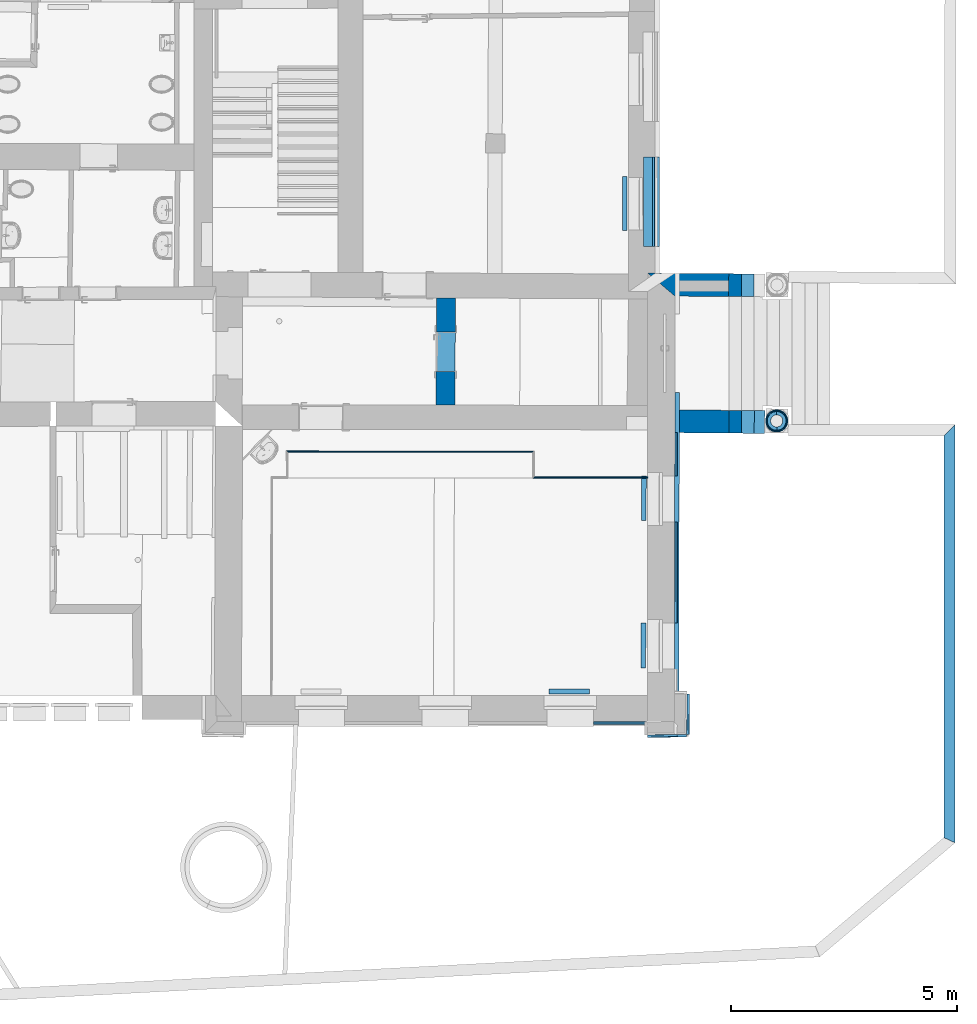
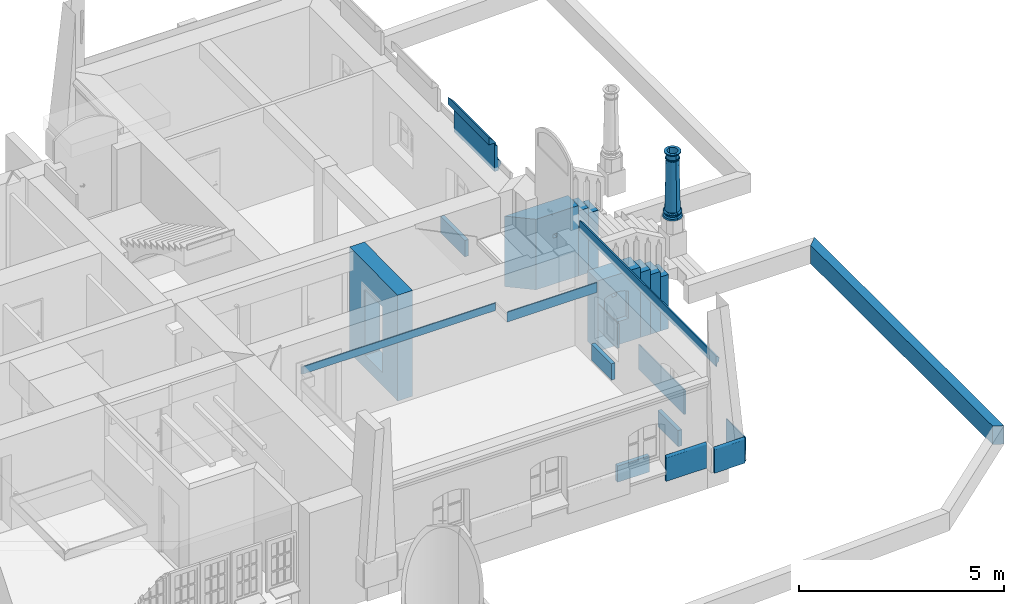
# One storey, part 53 of 196: 24 walls, 5 openings.
"""IFC2X3 building model written with IfcOpenShell, lengths in metres."""

from ifc_helpers import new_model, entity, si_unit, converted_unit, derived_unit, money_unit, point, direction, frame, frame_2d, origin_with_axes, origin_2d_with_axis, place, context, subcontext, project, spatial, polyline, circle_curve, parameter, trimmed, segment, composite_curve, rectangle, outline, extrude, material, layer, layer_set, layer_usage, type_object, element, save


model = new_model("IFC2X3")

# Units and contexts
model_context = context("Model", 3, precision=1e-05, world=origin_with_axes(), true_north=direction((0.0, 1.0)))
body_context = subcontext(model_context, "Body", "Model", "MODEL_VIEW")
ifc_project = project(units=[si_unit("LENGTHUNIT", "METRE"), si_unit("AREAUNIT", "SQUARE_METRE"), si_unit("VOLUMEUNIT", "CUBIC_METRE"), converted_unit("PLANEANGLEUNIT", "DEGREE", entity("IfcPlaneAngleMeasure", 0.0174532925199), si_unit("PLANEANGLEUNIT", "RADIAN"), dimensions=[0, 0, 0, 0, 0, 0, 0]), money_unit("EUR"), converted_unit("TIMEUNIT", "Year", entity("IfcTimeMeasure", 31556926.0), si_unit("TIMEUNIT", "SECOND"), dimensions=[0, 0, 1, 0, 0, 0, 0]), si_unit("MASSUNIT", "GRAM", prefix="KILO"), si_unit("THERMODYNAMICTEMPERATUREUNIT", "DEGREE_CELSIUS"), si_unit("LUMINOUSINTENSITYUNIT", "LUMEN"), si_unit("ENERGYUNIT", "JOULE", prefix="MEGA"), derived_unit("THERMALCONDUCTANCEUNIT", [(si_unit("POWERUNIT", "WATT"), 1), (si_unit("LENGTHUNIT", "METRE"), -1), (si_unit("THERMODYNAMICTEMPERATUREUNIT", "KELVIN"), -1)]), derived_unit("SPECIFICHEATCAPACITYUNIT", [(si_unit("ENERGYUNIT", "JOULE"), 1), (si_unit("MASSUNIT", "GRAM", prefix="KILO"), -1), (si_unit("THERMODYNAMICTEMPERATUREUNIT", "KELVIN"), -1)]), derived_unit("MASSDENSITYUNIT", [(si_unit("MASSUNIT", "GRAM", prefix="KILO"), 1), (si_unit("VOLUMEUNIT", "CUBIC_METRE"), -1)])], contexts=[model_context])

# Site, building, storey
site_placement = place(None, origin_with_axes())
site = spatial("IfcSite", under=ifc_project, at=site_placement, Name="Gelände", CompositionType="ELEMENT")
building_placement = place(site_placement, origin_with_axes())
building = spatial("IfcBuilding", under=site, at=building_placement, Name="Gebäude", CompositionType="ELEMENT")
storey_placement = place(building_placement, frame((0.0, 0.0, -3.0), z_axis=(0.0, 0.0, 1.0), x_axis=(1.0, 0.0, 0.0)))
storey = spatial("IfcBuildingStorey", under=building, at=storey_placement, Name="KELLERGESCHOSS", CompositionType="ELEMENT", Elevation=-3.0)

# Wall, opening
ifc_material_1 = material(Name="05_ALLGEMEIN - TRAGENDE BAUTEILE")
ifc_layer_1 = layer(ifc_material_1, 0.42, ventilated="UNKNOWN")
ifc_layer_set_1 = layer_set([ifc_layer_1], Name="05_ALLGEMEIN - TRAGENDE BAUTEILE 0.42")
ifc_layer_usage_1 = layer_usage(ifc_layer_set_1, "AXIS2", "NEGATIVE", 0.42)
wall_type_1 = type_object("IfcWallType", Name="05_ALLGEMEIN - TRAGENDE BAUTEILE 420", PredefinedType="ELEMENTEDWALL")
wall_1_placement = place(storey_placement, frame((26.8509158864, 19.262134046, -0.36), z_axis=(0.0, 0.0, 1.0), x_axis=(-0.00654431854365, -0.999978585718, 0.0)))
wall_1 = element("IfcWallStandardCase", 1, at=wall_1_placement, inside=storey, type_object=wall_type_1, material=ifc_layer_usage_1, Name="Wand-039", ObjectType="ELEMENTEDWALL", context=body_context, shape_type="SweptSolid", body=[
    extrude(outline(polyline([(0.0, 0.0), (2.37231980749, 0.0), (2.3700535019, 0.42), (-0.000498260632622, 0.42), (0.0, 0.0)])), origin_with_axes(), (0.0, 0.0, 1.0), 3.15),
])
opening_1_placement = place(wall_1_placement, frame((1.19311874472, 0.0, 0.385307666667), z_axis=(0.0, 0.0, 1.0), x_axis=(1.0, 0.0, 0.0)))
element("IfcOpeningElement", 2, at=opening_1_placement, cuts=wall_1, Name="Tür-022", context=body_context, shape_type="SweptSolid", body=[
    extrude(rectangle(XDim=0.875595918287, YDim=1.968789, at=origin_2d_with_axis()), frame((0.0, -0.42, 0.9843945), z_axis=(0.0, -1.0, 0.0), x_axis=(1.0, 0.0, 0.0)), (0.0, 0.0, -1.0), 1.26),
])

# Walls
ifc_layer_2 = layer(ifc_material_1, 0.250000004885, ventilated="UNKNOWN")
ifc_layer_set_2 = layer_set([ifc_layer_2], Name="05_ALLGEMEIN - TRAGENDE BAUTEILE 0.25")
ifc_layer_usage_2 = layer_usage(ifc_layer_set_2, "AXIS2", "POSITIVE", 0.0)
wall_type_2 = type_object("IfcWallType", Name="05_ALLGEMEIN - TRAGENDE BAUTEILE 250", PredefinedType="ELEMENTEDWALL")
wall_2_placement = place(storey_placement, frame((38.0674878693, 16.2085083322, 0.212), z_axis=(0.0, 0.0, 1.0), x_axis=(-0.000193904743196, -0.9999999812, 0.0)))
element("IfcWallStandardCase", 3, at=wall_2_placement, inside=storey, type_object=wall_type_2, material=ifc_layer_usage_2, Name="Wand-038", ObjectType="ELEMENTEDWALL", context=body_context, shape_type="SweptSolid", body=[
    extrude(outline(polyline([(0.0, 0.0), (8.87969154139, 0.0), (8.9959507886, 0.25), (-0.25, 0.25), (0.0, 0.0)])), origin_with_axes(), (0.0, 0.0, 1.0), 0.55),
])
ifc_material_2 = material(Name="43_Gipskarton")
ifc_layer_3 = layer(ifc_material_2, 0.03, ventilated="UNKNOWN")
ifc_layer_set_3 = layer_set([ifc_layer_3], Name="43_Gipskarton 0.03")
ifc_layer_usage_3 = layer_usage(ifc_layer_set_3, "AXIS2", "NEGATIVE", 0.0)
wall_type_3 = type_object("IfcWallType", Name="43_Gipskarton 30", PredefinedType="ELEMENTEDWALL")
wall_3_placement = place(storey_placement, frame((31.5172960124, 15.2761536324, 2.22), z_axis=(0.0, 0.0, 1.0), x_axis=(-0.999999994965, -0.00010035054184, 0.0)))
element("IfcWallStandardCase", 4, at=wall_3_placement, inside=storey, type_object=wall_type_3, material=ifc_layer_usage_3, Name="Wand-072", ObjectType="ELEMENTEDWALL", context=body_context, shape_type="SweptSolid", body=[
    extrude(outline(polyline([(0.0, -0.03), (2.506890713, -0.03), (2.53695179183, 0.0), (0.0, 0.0), (0.0, -0.03)])), origin_with_axes(), (0.0, 0.0, 1.0), 0.29),
])
ifc_layer_usage_4 = layer_usage(ifc_layer_set_3, "AXIS2", "NEGATIVE", 0.0)
wall_4_placement = place(storey_placement, frame((28.981445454, 15.845434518, 2.22), z_axis=(0.0, 0.0, 1.0), x_axis=(-0.99999998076, 0.000196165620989, 0.0)))
element("IfcWallStandardCase", 5, at=wall_4_placement, inside=storey, type_object=wall_type_3, material=ifc_layer_usage_4, Name="Wand-073", ObjectType="ELEMENTEDWALL", context=body_context, shape_type="SweptSolid", body=[
    extrude(outline(polyline([(-0.0300521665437, -0.03), (5.44938726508, -0.03), (5.41919817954, 0.0), (0.0, 0.0), (-0.0300521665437, -0.03)])), origin_with_axes(), (0.0, 0.0, 1.0), 0.22),
])
ifc_material_3 = material(Name="01_ALLGEMEIN - BAUTEIL")
ifc_layer_4 = layer(ifc_material_3, 0.105, ventilated="UNKNOWN")
ifc_layer_set_4 = layer_set([ifc_layer_4], Name="01_ALLGEMEIN - BAUTEIL 0.105")
ifc_layer_usage_5 = layer_usage(ifc_layer_set_4, "AXIS2", "NEGATIVE", 0.0)
wall_type_4 = type_object("IfcWallType", Name="01_ALLGEMEIN - BAUTEIL 105", PredefinedType="ELEMENTEDWALL")
wall_5_placement = place(storey_placement, frame((29.3415570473, 10.6110072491, 0.217027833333), z_axis=(0.0, 0.0, 1.0), x_axis=(0.999999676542, 0.000804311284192, 0.0)))
element("IfcWallStandardCase", 6, at=wall_5_placement, inside=storey, type_object=wall_type_4, material=ifc_layer_usage_5, Name="Wand-037", ObjectType="ELEMENTEDWALL", context=body_context, shape_type="SweptSolid", body=[
    extrude(outline(polyline([(0.0, -0.105), (0.892507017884, -0.105), (0.892507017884, 0.0), (0.0, 0.0), (0.0, -0.105)])), origin_with_axes(), (0.0, 0.0, 1.0), 0.485031),
])
ifc_layer_usage_6 = layer_usage(ifc_layer_set_4, "AXIS2", "NEGATIVE", 0.0)
wall_6_placement = place(storey_placement, frame((31.3774200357, 14.3436472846, 0.217027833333), z_axis=(0.0, 0.0, 1.0), x_axis=(0.00712959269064, 0.999974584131, 0.0)))
element("IfcWallStandardCase", 7, at=wall_6_placement, inside=storey, type_object=wall_type_4, material=ifc_layer_usage_6, Name="Wand-038", ObjectType="ELEMENTEDWALL", context=body_context, shape_type="SweptSolid", body=[
    extrude(outline(polyline([(0.0, -0.105), (0.980929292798, -0.105), (0.980929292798, 0.0), (0.0, 0.0), (0.0, -0.105)])), origin_with_axes(), (0.0, 0.0, 1.0), 0.485031),
])
ifc_layer_usage_7 = layer_usage(ifc_layer_set_4, "AXIS2", "NEGATIVE", 0.105)
wall_7_placement = place(storey_placement, frame((31.3739560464, 12.0712479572, 0.217027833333), z_axis=(0.0, 0.0, 1.0), x_axis=(-0.00472354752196, -0.999988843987, 0.0)))
element("IfcWallStandardCase", 8, at=wall_7_placement, inside=storey, type_object=wall_type_4, material=ifc_layer_usage_7, Name="Wand-039", ObjectType="ELEMENTEDWALL", context=body_context, shape_type="SweptSolid", body=[
    extrude(outline(polyline([(0.0, 0.0), (0.996149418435, 0.0), (0.996149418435, 0.105), (0.0, 0.105), (0.0, 0.0)])), origin_with_axes(), (0.0, 0.0, 1.0), 0.485031),
])
ifc_layer_usage_8 = layer_usage(ifc_layer_set_4, "AXIS2", "NEGATIVE", 0.0)
wall_8_placement = place(storey_placement, frame((30.9574664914, 20.7531469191, 0.147079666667), z_axis=(0.0, 0.0, 1.0), x_axis=(0.00208344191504, 0.999997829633, 0.0)))
element("IfcWallStandardCase", 9, at=wall_8_placement, inside=storey, type_object=wall_type_4, material=ifc_layer_usage_8, Name="Wand-039", ObjectType="ELEMENTEDWALL", context=body_context, shape_type="SweptSolid", body=[
    extrude(outline(polyline([(0.0, -0.105), (1.19626940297, -0.105), (1.19626940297, 0.0), (0.0, 0.0), (0.0, -0.105)])), origin_with_axes(), (0.0, 0.0, 1.0), 0.485031),
])
ifc_layer_5 = layer(ifc_material_1, 0.504364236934, ventilated="UNKNOWN")
ifc_layer_set_5 = layer_set([ifc_layer_5], Name="05_ALLGEMEIN - TRAGENDE BAUTEILE 0.504364")
ifc_layer_usage_9 = layer_usage(ifc_layer_set_5, "AXIS2", "POSITIVE", -0.504364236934)
wall_type_5 = type_object("IfcWallType", Name="05_ALLGEMEIN - TRAGENDE BAUTEILE 504", PredefinedType="ELEMENTEDWALL")
wall_9_placement = place(storey_placement, frame((33.8731890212, 16.2667177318, -0.36), z_axis=(0.0, 0.0, 1.0), x_axis=(-0.999963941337, 0.00849211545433, 0.0)))
element("IfcWallStandardCase", 10, at=wall_9_placement, inside=storey, type_object=wall_type_5, material=ifc_layer_usage_9, Name="Wand-043", ObjectType="ELEMENTEDWALL", context=body_context, shape_type="SweptSolid", body=[
    extrude(outline(polyline([(0.0, -0.504364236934), (0.279703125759, -0.504364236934), (0.279703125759, 0.0), (0.0, 0.0), (0.0, -0.504364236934)])), origin_with_axes(), (0.0, 0.0, 1.0), 1.774),
])
ifc_layer_usage_10 = layer_usage(ifc_layer_set_5, "AXIS2", "POSITIVE", -0.504364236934)
wall_10_placement = place(storey_placement, frame((34.1042580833, 16.2647553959, -0.36), z_axis=(0.0, 0.0, 1.0), x_axis=(-0.999963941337, 0.00849211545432, 0.0)))
element("IfcWallStandardCase", 11, at=wall_10_placement, inside=storey, type_object=wall_type_5, material=ifc_layer_usage_10, Name="Wand-043", ObjectType="ELEMENTEDWALL", context=body_context, shape_type="SweptSolid", body=[
    extrude(outline(polyline([(0.0, -0.504364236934), (0.231077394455, -0.504364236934), (0.231077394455, 0.0), (0.0, 0.0), (0.0, -0.504364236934)])), origin_with_axes(), (0.0, 0.0, 1.0), 1.611),
])
ifc_layer_usage_11 = layer_usage(ifc_layer_set_5, "AXIS2", "NEGATIVE", 0.504364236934)
wall_11_placement = place(storey_placement, frame((33.8734217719, 19.792093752, -0.36), z_axis=(0.0, 0.0, 1.0), x_axis=(-0.999975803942, 0.00695640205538, 0.0)))
element("IfcWallStandardCase", 12, at=wall_11_placement, inside=storey, type_object=wall_type_5, material=ifc_layer_usage_11, Name="Wand-043", ObjectType="ELEMENTEDWALL", context=body_context, shape_type="SweptSolid", body=[
    extrude(outline(polyline([(0.0, 0.0), (0.279699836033, 0.0), (0.279699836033, 0.504364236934), (0.0, 0.504364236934), (0.0, 0.0)])), origin_with_axes(), (0.0, 0.0, 1.0), 1.774),
])

# Wall, openings
ifc_layer_usage_12 = layer_usage(ifc_layer_set_5, "AXIS2", "POSITIVE", -0.504364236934)
wall_12_placement = place(storey_placement, frame((33.311914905, 16.2714843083, -0.36), z_axis=(0.0, 0.0, 1.0), x_axis=(-0.999963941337, 0.00849211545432, 0.0)))
wall_12 = element("IfcWallStandardCase", 13, at=wall_12_placement, inside=storey, type_object=wall_type_5, material=ifc_layer_usage_12, Name="Wand-043", ObjectType="ELEMENTEDWALL", context=body_context, shape_type="SweptSolid", body=[
    extrude(outline(polyline([(0.0, -0.504364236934), (1.19779356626, -0.504364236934), (1.1938949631, 0.0), (0.0, 0.0), (0.0, -0.504364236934)])), origin_with_axes(), (0.0, 0.0, 1.0), 2.1),
])
opening_2_placement = place(wall_12_placement, frame((0.675035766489, 0.0, 0.688096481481), z_axis=(0.0, 0.0, 1.0), x_axis=(1.0, 0.0, 0.0)))
element("IfcOpeningElement", 14, at=opening_2_placement, cuts=wall_12, Name="Fenster-015", ObjectType="Recess", context=body_context, shape_type="SweptSolid", body=[
    extrude(outline(polyline([(-0.335874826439, 0.0), (-0.335874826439, -0.815653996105), (-0.229010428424, -0.86189020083), (-0.116049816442, -0.89013358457), (4.02905298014e-09, -0.89963233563), (0.116049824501, -0.89013358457), (0.229010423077, -0.86189020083), (0.335874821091, -0.815653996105), (0.33587582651, -0.815554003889), (0.335874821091, 0.0), (-0.335874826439, 0.0)])), frame((0.0, -0.126098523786, 0.0), z_axis=(0.0, -1.0, 0.0), x_axis=(-1.0, 0.0, 0.0)), (0.0, 0.0, -1.0), 0.630462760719),
])
opening_3_placement = place(wall_12_placement, frame((0.665344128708, 0.0, 1.37194148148), z_axis=(0.0, 0.0, 1.0), x_axis=(1.0, 0.0, 0.0)))
element("IfcOpeningElement", 15, at=opening_3_placement, cuts=wall_12, Name="Fenster-015", context=body_context, shape_type="SweptSolid", body=[
    extrude(rectangle(XDim=0.117865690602, YDim=0.114639, at=origin_2d_with_axis()), frame((0.0, -0.126098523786, 0.0573195), z_axis=(0.0, -1.0, 0.0), x_axis=(1.0, 0.0, 0.0)), (0.0, 0.0, 1.0), 0.882629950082),
    extrude(rectangle(XDim=0.117865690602, YDim=0.114639, at=origin_2d_with_axis()), frame((0.0, -0.126098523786, 0.0573195), z_axis=(0.0, 1.0, 0.0), x_axis=(1.0, 0.0, 0.0)), (0.0, 0.0, 1.0), 0.630462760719),
])

# Wall
ifc_layer_usage_13 = layer_usage(ifc_layer_set_5, "AXIS2", "NEGATIVE", 0.504364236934)
wall_13_placement = place(storey_placement, frame((33.5937287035, 19.7940394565, -0.36), z_axis=(0.0, 0.0, 1.0), x_axis=(-0.999975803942, 0.00695640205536, 0.0)))
element("IfcWallStandardCase", 16, at=wall_13_placement, inside=storey, type_object=wall_type_5, material=ifc_layer_usage_13, Name="Wand-043", ObjectType="ELEMENTEDWALL", context=body_context, shape_type="SweptSolid", body=[
    extrude(outline(polyline([(0.0, 0.0), (0.281820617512, 0.0), (0.281820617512, 0.504364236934), (0.0, 0.504364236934), (0.0, 0.0)])), origin_with_axes(), (0.0, 0.0, 1.0), 1.937),
])

# Wall, openings
ifc_layer_usage_14 = layer_usage(ifc_layer_set_5, "AXIS2", "NEGATIVE", 0.504364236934)
wall_14_placement = place(storey_placement, frame((33.311914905, 19.795999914, -0.36), z_axis=(0.0, 0.0, 1.0), x_axis=(-0.999975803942, 0.00695640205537, 0.0)))
wall_14 = element("IfcWallStandardCase", 17, at=wall_14_placement, inside=storey, type_object=wall_type_5, material=ifc_layer_usage_14, Name="Wand-043", ObjectType="ELEMENTEDWALL", context=body_context, shape_type="SweptSolid", body=[
    extrude(outline(polyline([(0.0, 0.0), (1.79120574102, 0.0), (1.18807024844, 0.504364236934), (0.0, 0.504364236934), (0.0, 0.0)])), origin_with_axes(), (0.0, 0.0, 1.0), 2.1),
])
opening_4_placement = place(wall_14_placement, frame((0.669546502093, 0.0, 0.688096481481), z_axis=(0.0, 0.0, 1.0), x_axis=(1.0, 0.0, 0.0)))
element("IfcOpeningElement", 18, at=opening_4_placement, cuts=wall_14, Name="Fenster-015", ObjectType="Recess", context=body_context, shape_type="SweptSolid", body=[
    extrude(outline(polyline([(-0.335874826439, 0.0), (-0.335874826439, -0.815653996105), (-0.229010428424, -0.86189020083), (-0.116049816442, -0.89013358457), (4.02906719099e-09, -0.89963233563), (0.116049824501, -0.89013358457), (0.229010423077, -0.86189020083), (0.335874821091, -0.815653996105), (0.33587582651, -0.815554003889), (0.335874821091, 0.0), (-0.335874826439, 0.0)])), frame((0.0, 0.126098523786, 0.0), z_axis=(0.0, -1.0, 0.0), x_axis=(-1.0, 0.0, 0.0)), (0.0, 0.0, 1.0), 0.630462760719),
])
opening_5_placement = place(wall_14_placement, frame((0.659854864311, 0.0, 1.37194148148), z_axis=(0.0, 0.0, 1.0), x_axis=(1.0, 0.0, 0.0)))
element("IfcOpeningElement", 19, at=opening_5_placement, cuts=wall_14, Name="Fenster-015", context=body_context, shape_type="SweptSolid", body=[
    extrude(rectangle(XDim=0.117865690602, YDim=0.114639, at=origin_2d_with_axis()), frame((0.0, 0.126098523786, 0.0573195), z_axis=(0.0, -1.0, 0.0), x_axis=(1.0, 0.0, 0.0)), (0.0, 0.0, -1.0), 0.882629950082),
    extrude(rectangle(XDim=0.117865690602, YDim=0.114639, at=origin_2d_with_axis()), frame((0.0, 0.126098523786, 0.0573195), z_axis=(0.0, 1.0, 0.0), x_axis=(1.0, 0.0, 0.0)), (0.0, 0.0, -1.0), 0.630462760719),
])

# Walls
ifc_layer_usage_15 = layer_usage(ifc_layer_set_5, "AXIS2", "POSITIVE", -0.504364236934)
wall_15_placement = place(storey_placement, frame((33.5934959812, 16.2690930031, -0.36), z_axis=(0.0, 0.0, 1.0), x_axis=(-0.999963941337, 0.00849211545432, 0.0)))
element("IfcWallStandardCase", 20, at=wall_15_placement, inside=storey, type_object=wall_type_5, material=ifc_layer_usage_15, Name="Wand-043", ObjectType="ELEMENTEDWALL", context=body_context, shape_type="SweptSolid", body=[
    extrude(outline(polyline([(0.0, -0.504364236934), (0.281591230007, -0.504364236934), (0.281591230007, 0.0), (0.0, 0.0), (0.0, -0.504364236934)])), origin_with_axes(), (0.0, 0.0, 1.0), 1.937),
])
wall_type_6 = type_object("IfcWallType", Name="Stütze 117 x 1928", PredefinedType="ELEMENTEDWALL")
wall_16_placement = place(storey_placement, frame((34.3663369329, 16.7914126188, 2.74686019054), z_axis=(0.0, 0.0, 1.0), x_axis=(-0.999817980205, -0.0190789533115, 0.0)))
cartesian_point_1 = entity("IfcCartesianPoint", [0.0851968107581, 1.688739])
cartesian_point_2 = entity("IfcCartesianPoint", [0.0571737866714, 0.196739])
cartesian_point_3 = entity("IfcCartesianPoint", [0.0510952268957, 0.115063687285])
cartesian_point_4 = entity("IfcCartesianPoint", [0.0432145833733, 1.928458])
cartesian_point_5 = entity("IfcCartesianPoint", [0.0811007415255, 1.886749])
cartesian_point_6 = entity("IfcCartesianPoint", [0.0914956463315, 1.737441])
element("IfcWall", 21, at=wall_16_placement, inside=storey, type_object=wall_type_6, material=ifc_material_1, Name="Wand-069", ObjectType="ELEMENTEDWALL", context=body_context, shape_type="SweptSolid", body=[
    entity("IfcRevolvedAreaSolid", entity("IfcArbitraryClosedProfileDef", "AREA", None, entity("IfcCompositeCurve", [entity("IfcCompositeCurveSegment", "CONTINUOUS", True, entity("IfcPolyline", [cartesian_point_1, cartesian_point_2])), entity("IfcCompositeCurveSegment", "CONTINUOUS", True, entity("IfcTrimmedCurve", entity("IfcCircle", entity("IfcAxis2Placement2D", entity("IfcCartesianPoint", [0.0577272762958, 0.155633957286]), entity("IfcDirection", [-0.0134640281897, 0.999909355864])), 0.0411087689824), [cartesian_point_2, entity("IfcParameterValue", 0.0)], [cartesian_point_3, entity("IfcParameterValue", 169.944482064)], True, "CARTESIAN")), entity("IfcCompositeCurveSegment", "CONTINUOUS", True, entity("IfcPolyline", [cartesian_point_3, entity("IfcCartesianPoint", [0.0510952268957, 0.073549]), entity("IfcCartesianPoint", [0.0339839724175, 0.062344]), entity("IfcCartesianPoint", [0.0145262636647, 0.04314]), entity("IfcCartesianPoint", [0.0, 0.0]), entity("IfcCartesianPoint", [0.116531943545, 0.0]), entity("IfcCartesianPoint", [0.116531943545, 1.928458]), cartesian_point_4])), entity("IfcCompositeCurveSegment", "CONTINUOUS", True, entity("IfcTrimmedCurve", entity("IfcCircle", entity("IfcAxis2Placement2D", entity("IfcCartesianPoint", [0.0684504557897, 1.91331952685]), entity("IfcDirection", [-0.857538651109, 0.514419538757])), 0.029428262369), [cartesian_point_4, entity("IfcParameterValue", 0.0)], [cartesian_point_5, entity("IfcParameterValue", 146.417885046)], True, "CARTESIAN")), entity("IfcCompositeCurveSegment", "CONTINUOUS", True, entity("IfcPolyline", [cartesian_point_5, entity("IfcCartesianPoint", [0.0994803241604, 1.872894]), cartesian_point_6])), entity("IfcCompositeCurveSegment", "CONTINUOUS", True, entity("IfcTrimmedCurve", entity("IfcCircle", entity("IfcAxis2Placement2D", entity("IfcCartesianPoint", [0.0925637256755, 1.71254453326]), entity("IfcDirection", [-0.0428614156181, 0.99908102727])), 0.0249193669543), [cartesian_point_6, entity("IfcParameterValue", 0.0)], [cartesian_point_1, entity("IfcParameterValue", 160.348144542)], True, "CARTESIAN"))], False)), entity("IfcAxis2Placement3D", entity("IfcCartesianPoint", [0.0, 0.0, 0.0]), entity("IfcDirection", [1.0, 0.0, 0.0]), entity("IfcDirection", [0.0, 1.0, 0.0])), entity("IfcAxis1Placement", entity("IfcCartesianPoint", [0.25, 0.0, 0.0]), entity("IfcDirection", [0.0, 1.0, 0.0])), 180.0),
])
wall_17_placement = place(storey_placement, frame((34.3758764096, 16.2915036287, 2.74686019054), z_axis=(0.0, 0.0, 1.0), x_axis=(0.999817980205, 0.0190789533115, 0.0)))
cartesian_point_7 = entity("IfcCartesianPoint", [0.0851968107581, 1.688739])
cartesian_point_8 = entity("IfcCartesianPoint", [0.0571737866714, 0.196739])
cartesian_point_9 = entity("IfcCartesianPoint", [0.0510952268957, 0.115063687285])
cartesian_point_10 = entity("IfcCartesianPoint", [0.0432145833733, 1.928458])
cartesian_point_11 = entity("IfcCartesianPoint", [0.0811007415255, 1.886749])
cartesian_point_12 = entity("IfcCartesianPoint", [0.0914956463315, 1.737441])
element("IfcWall", 22, at=wall_17_placement, inside=storey, type_object=wall_type_6, material=ifc_material_1, Name="Wand-070", ObjectType="ELEMENTEDWALL", context=body_context, shape_type="SweptSolid", body=[
    entity("IfcRevolvedAreaSolid", entity("IfcArbitraryClosedProfileDef", "AREA", None, entity("IfcCompositeCurve", [entity("IfcCompositeCurveSegment", "CONTINUOUS", True, entity("IfcPolyline", [cartesian_point_7, cartesian_point_8])), entity("IfcCompositeCurveSegment", "CONTINUOUS", True, entity("IfcTrimmedCurve", entity("IfcCircle", entity("IfcAxis2Placement2D", entity("IfcCartesianPoint", [0.0577272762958, 0.155633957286]), entity("IfcDirection", [-0.0134640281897, 0.999909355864])), 0.0411087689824), [cartesian_point_8, entity("IfcParameterValue", 0.0)], [cartesian_point_9, entity("IfcParameterValue", 169.944482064)], True, "CARTESIAN")), entity("IfcCompositeCurveSegment", "CONTINUOUS", True, entity("IfcPolyline", [cartesian_point_9, entity("IfcCartesianPoint", [0.0510952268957, 0.073549]), entity("IfcCartesianPoint", [0.0339839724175, 0.062344]), entity("IfcCartesianPoint", [0.0145262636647, 0.04314]), entity("IfcCartesianPoint", [0.0, 0.0]), entity("IfcCartesianPoint", [0.116531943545, 0.0]), entity("IfcCartesianPoint", [0.116531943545, 1.928458]), cartesian_point_10])), entity("IfcCompositeCurveSegment", "CONTINUOUS", True, entity("IfcTrimmedCurve", entity("IfcCircle", entity("IfcAxis2Placement2D", entity("IfcCartesianPoint", [0.0684504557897, 1.91331952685]), entity("IfcDirection", [-0.857538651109, 0.514419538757])), 0.029428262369), [cartesian_point_10, entity("IfcParameterValue", 0.0)], [cartesian_point_11, entity("IfcParameterValue", 146.417885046)], True, "CARTESIAN")), entity("IfcCompositeCurveSegment", "CONTINUOUS", True, entity("IfcPolyline", [cartesian_point_11, entity("IfcCartesianPoint", [0.0994803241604, 1.872894]), cartesian_point_12])), entity("IfcCompositeCurveSegment", "CONTINUOUS", True, entity("IfcTrimmedCurve", entity("IfcCircle", entity("IfcAxis2Placement2D", entity("IfcCartesianPoint", [0.0925637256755, 1.71254453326]), entity("IfcDirection", [-0.0428614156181, 0.99908102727])), 0.0249193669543), [cartesian_point_12, entity("IfcParameterValue", 0.0)], [cartesian_point_7, entity("IfcParameterValue", 160.348144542)], True, "CARTESIAN"))], False)), entity("IfcAxis2Placement3D", entity("IfcCartesianPoint", [0.0, 0.0, 0.0]), entity("IfcDirection", [1.0, 0.0, 0.0]), entity("IfcDirection", [0.0, 1.0, 0.0])), entity("IfcAxis1Placement", entity("IfcCartesianPoint", [0.25, 0.0, 0.0]), entity("IfcDirection", [0.0, 1.0, 0.0])), 180.0),
])
wall_type_7 = type_object("IfcWallType", Name="Fassade Sims 2 100 x 317", PredefinedType="ELEMENTEDWALL")
wall_18_placement = place(storey_placement, frame((32.1187368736, 17.1652465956, 3.0001877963), z_axis=(0.0, 0.0, 1.0), x_axis=(-0.000762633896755, -0.999999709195, 0.0)))
element("IfcWall", 23, at=wall_18_placement, inside=storey, type_object=wall_type_7, material=ifc_material_3, Name="Wand-072", ObjectType="ELEMENTEDWALL", context=body_context, shape_type="SweptSolid", body=[
    extrude(outline(composite_curve([segment(polyline([(0.0803683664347, -0.186906), (0.0895185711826, -0.093362), (0.0995232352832, -0.087582), (0.0998272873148, -0.082979), (0.0954028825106, -0.076844), (0.0345157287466, -0.016522), (0.0, 0.0), (0.0, -0.316717), (0.0018235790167, -0.316717), (0.0200141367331, -0.312632), (0.0311727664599, -0.240312)]), True, "CONTINUOUS"), segment(trimmed(circle_curve(frame_2d((0.0901432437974, -0.245271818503), x_axis=(-0.165175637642, 0.986264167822)), 0.0591786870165), [point((0.0311727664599, -0.240312)), parameter(75.6849122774)], [point((0.0803683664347, -0.186906)), parameter(0.0)], False, "CARTESIAN"), True, "CONTINUOUS")], self_intersect=False)), frame((0.0, 0.0, 0.0), z_axis=(1.0, 0.0, 0.0), x_axis=(0.0, 1.0, 0.0)), (0.0, 0.0, 1.0), 6.656390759),
])
wall_type_8 = type_object("IfcWallType", Name="Fassade Sims 3 354 x 1078", PredefinedType="ELEMENTEDWALL")
wall_19_placement = place(storey_placement, frame((31.4217384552, 22.3733419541, 3.7610087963), z_axis=(0.0, 0.0, 1.0), x_axis=(0.000336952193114, -0.999999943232, 0.0)))
element("IfcWall", 24, at=wall_19_placement, inside=storey, type_object=wall_type_8, material=ifc_material_3, Name="Wand-072", ObjectType="ELEMENTEDWALL", context=body_context, shape_type="SweptSolid", body=[
    extrude(outline(composite_curve([segment(polyline([(0.14560494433, -0.148592), (0.0, 0.0), (0.0, -0.22495), (0.159572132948, -0.22495), (0.159572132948, -1.077538), (0.254494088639, -1.077538), (0.256317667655, -1.077538), (0.274508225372, -1.073453), (0.285666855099, -1.001133)]), True, "CONTINUOUS"), segment(trimmed(circle_curve(frame_2d((0.344637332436, -1.0060928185), x_axis=(-0.165175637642, 0.986264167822)), 0.0591786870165), [point((0.285666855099, -1.001133)), parameter(75.6849122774)], [point((0.334862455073, -0.947727)), parameter(0.0)], False, "CARTESIAN"), True, "CONTINUOUS"), segment(polyline([(0.334862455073, -0.947727), (0.344012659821, -0.854183), (0.354017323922, -0.848403), (0.354321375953, -0.8438), (0.349896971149, -0.837665), (0.289009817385, -0.777343), (0.254494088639, -0.760821), (0.249258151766, -0.387927)]), True, "CONTINUOUS"), segment(trimmed(circle_curve(frame_2d((0.192385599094, -0.368027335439), x_axis=(0.943887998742, -0.330265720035)), 0.0602534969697), [point((0.249258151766, -0.387927)), parameter(0.0)], [point((0.189541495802, -0.307841)), parameter(111.990401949)], True, "CARTESIAN"), True, "CONTINUOUS"), segment(polyline([(0.189541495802, -0.307841), (0.203652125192, -0.237894), (0.20373926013, -0.22495), (0.14560494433, -0.148592)]), True, "CONTINUOUS")], self_intersect=False)), frame((0.0, 0.0, 0.0), z_axis=(1.0, 0.0, 0.0), x_axis=(0.0, 1.0, 0.0)), (0.0, 0.0, 1.0), 1.97800129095),
])
wall_type_9 = type_object("IfcWallType", Name="Sockel 1 59 x 750", PredefinedType="ELEMENTEDWALL")
wall_20_placement = place(storey_placement, frame((32.1165540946, 14.3030890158, 1.05914340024), z_axis=(0.0, 0.0, 1.0), x_axis=(-0.000762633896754, -0.999999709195, 0.0)))
element("IfcWall", 25, at=wall_20_placement, inside=storey, type_object=wall_type_9, material=ifc_material_3, Name="Wand-076", ObjectType="ELEMENTEDWALL", context=body_context, shape_type="SweptSolid", body=[
    extrude(outline(composite_curve([segment(polyline([(0.0582254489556, -0.75), (0.0575648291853, -0.072488)]), True, "CONTINUOUS"), segment(trimmed(circle_curve(frame_2d((0.00752199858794, -0.0589368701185), x_axis=(0.965236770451, -0.261377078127)), 0.0518451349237), [point((0.0575648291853, -0.072488)), parameter(0.0)], [point((0.0162927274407, -0.007839)), parameter(95.4121261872)], True, "CARTESIAN"), True, "CONTINUOUS"), segment(polyline([(0.0162927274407, -0.007839), (0.00232171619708, 0.0), (0.0, 0.0), (0.0, -0.75), (0.0582254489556, -0.75)]), True, "CONTINUOUS")], self_intersect=False)), frame((0.0, 0.0, 0.0), z_axis=(1.0, 0.0, 0.0), x_axis=(0.0, 1.0, 0.0)), (0.0, 0.0, 1.0), 2.22748143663),
])
wall_21_placement = place(storey_placement, frame((32.1180629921, 16.2816230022, 1.05914340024), z_axis=(0.0, 0.0, 1.0), x_axis=(-0.000762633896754, -0.999999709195, 0.0)))
element("IfcWall", 26, at=wall_21_placement, inside=storey, type_object=wall_type_9, material=ifc_material_3, Name="Wand-076", ObjectType="ELEMENTEDWALL", context=body_context, shape_type="SweptSolid", body=[
    extrude(outline(composite_curve([segment(polyline([(0.0582254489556, -0.75), (0.0575648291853, -0.072488)]), True, "CONTINUOUS"), segment(trimmed(circle_curve(frame_2d((0.00752199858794, -0.0589368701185), x_axis=(0.965236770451, -0.261377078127)), 0.0518451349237), [point((0.0575648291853, -0.072488)), parameter(0.0)], [point((0.0162927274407, -0.007839)), parameter(95.4121261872)], True, "CARTESIAN"), True, "CONTINUOUS"), segment(polyline([(0.0162927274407, -0.007839), (0.00232171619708, 0.0), (0.0, 0.0), (0.0, -0.75), (0.0582254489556, -0.75)]), True, "CONTINUOUS")], self_intersect=False)), frame((0.0, 0.0, 0.0), z_axis=(1.0, 0.0, 0.0), x_axis=(0.0, 1.0, 0.0)), (0.0, 0.0, 1.0), 0.954723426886),
])
wall_22_placement = place(storey_placement, frame((31.4674520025, 9.89148264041, 1.05914340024), z_axis=(0.0, 0.0, 1.0), x_axis=(-0.999999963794, -0.000269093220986, 0.0)))
element("IfcWall", 27, at=wall_22_placement, inside=storey, type_object=wall_type_9, material=ifc_material_3, Name="Wand-076", ObjectType="ELEMENTEDWALL", context=body_context, shape_type="SweptSolid", body=[
    extrude(outline(composite_curve([segment(polyline([(0.0582254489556, -0.75), (0.0575648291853, -0.072488)]), True, "CONTINUOUS"), segment(trimmed(circle_curve(frame_2d((0.00752199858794, -0.0589368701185), x_axis=(0.965236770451, -0.261377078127)), 0.0518451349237), [point((0.0575648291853, -0.072488)), parameter(0.0)], [point((0.0162927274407, -0.007839)), parameter(95.4121261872)], True, "CARTESIAN"), True, "CONTINUOUS"), segment(polyline([(0.0162927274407, -0.007839), (0.00232171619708, 0.0), (0.0, 0.0), (0.0, -0.75), (0.0582254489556, -0.75)]), True, "CONTINUOUS")], self_intersect=False)), frame((0.0, 0.0, 0.0), z_axis=(1.0, 0.0, 0.0), x_axis=(0.0, 1.0, 0.0)), (0.0, 0.0, 1.0), 1.14991758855),
])
wall_23_placement = place(storey_placement, frame((32.3879849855, 10.5063461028, 1.05914340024), z_axis=(0.0, 0.0, 1.0), x_axis=(-0.00915176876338, -0.999958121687, 0.0)))
element("IfcWall", 28, at=wall_23_placement, inside=storey, type_object=wall_type_9, material=ifc_material_3, Name="Wand-077", ObjectType="ELEMENTEDWALL", context=body_context, shape_type="SweptSolid", body=[
    extrude(outline(composite_curve([segment(polyline([(0.0582254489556, -0.75), (0.0575648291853, -0.072488)]), True, "CONTINUOUS"), segment(trimmed(circle_curve(frame_2d((0.00752199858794, -0.0589368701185), x_axis=(0.965236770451, -0.261377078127)), 0.0518451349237), [point((0.0575648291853, -0.072488)), parameter(0.0)], [point((0.0162927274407, -0.007839)), parameter(95.4121261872)], True, "CARTESIAN"), True, "CONTINUOUS"), segment(polyline([(0.0162927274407, -0.007839), (0.00232171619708, 0.0), (0.0, 0.0), (0.0, -0.75), (0.0582254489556, -0.75)]), True, "CONTINUOUS")], self_intersect=False)), frame((0.0, 0.0, 0.0), z_axis=(1.0, 0.0, 0.0), x_axis=(0.0, 1.0, 0.0)), (0.0, 0.0, 1.0), 0.895409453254),
])
wall_24_placement = place(storey_placement, frame((32.3797904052, 9.6109741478, 1.05914340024), z_axis=(0.0, 0.0, 1.0), x_axis=(-0.999930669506, -0.0117752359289, 0.0)))
element("IfcWall", 29, at=wall_24_placement, inside=storey, type_object=wall_type_9, material=ifc_material_3, Name="Wand-078", ObjectType="ELEMENTEDWALL", context=body_context, shape_type="SweptSolid", body=[
    extrude(outline(composite_curve([segment(polyline([(0.0582254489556, -0.75), (0.0575648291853, -0.072488)]), True, "CONTINUOUS"), segment(trimmed(circle_curve(frame_2d((0.00752199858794, -0.0589368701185), x_axis=(0.965236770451, -0.261377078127)), 0.0518451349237), [point((0.0575648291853, -0.072488)), parameter(0.0)], [point((0.0162927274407, -0.007839)), parameter(95.4121261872)], True, "CARTESIAN"), True, "CONTINUOUS"), segment(polyline([(0.0162927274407, -0.007839), (0.00232171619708, 0.0), (0.0, 0.0), (0.0, -0.75), (0.0582254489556, -0.75)]), True, "CONTINUOUS")], self_intersect=False)), frame((0.0, 0.0, 0.0), z_axis=(1.0, 0.0, 0.0), x_axis=(0.0, 1.0, 0.0)), (0.0, 0.0, 1.0), 0.868636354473),
])

save(model, "model.ifc")
